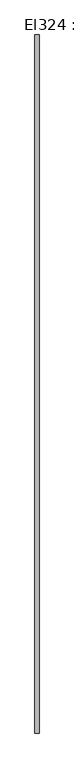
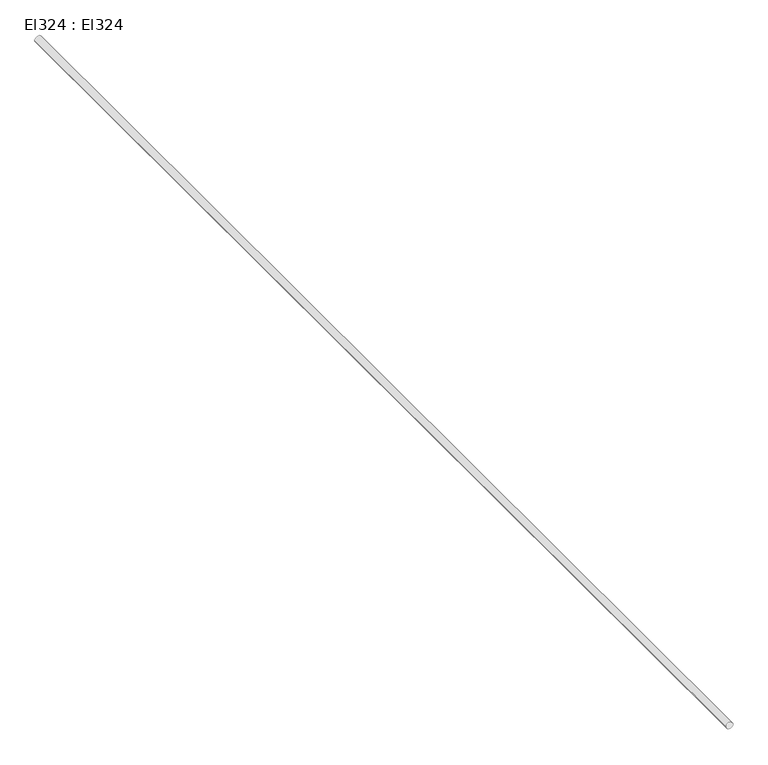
"""IFC4 building model written with IfcOpenShell, lengths in millimetres: cable carrier segment geometry, El324 : El324."""

import ifcopenshell
import ifcopenshell.guid

model = None  # the IFC model being written
_history = None  # IfcOwnerHistory: only IFC2X3 demands one
_inside = {}  # id of a spatial element -> (the spatial element, [elements in it])
_under = {}  # id of a project, library or spatial element -> (it, [spatial elements below it])
_declared = {}  # id of a project -> (the project, [libraries it declares])
_typed = {}  # id of a type object -> (the type object, [elements of that type])
_made_of = {}  # id of a material, layer set ... -> (it, [elements and type objects made of it])


def new_model(schema):
    """Start an empty IFC model of exactly this schema.

    Asked for "IFC4X3", IfcOpenShell would pick the latest addendum, in which some entities
    have other attributes; the version numbers below select the first issue.
    IFC2X3 requires an IfcOwnerHistory on every rooted entity: one is made here for all.
    """
    global model, _history
    if schema == "IFC4X3":
        model = ifcopenshell.file(schema_version=(4, 3, 0, 0))
    else:
        model = ifcopenshell.file(schema=schema)
    _inside.clear()
    _under.clear()
    _declared.clear()
    _typed.clear()
    _made_of.clear()
    _history = None
    if model.schema == "IFC2X3":
        org = make("IfcOrganization", Name="unknown")
        user = make(
            "IfcPersonAndOrganization",
            ThePerson=make("IfcPerson", FamilyName="unknown"),
            TheOrganization=org,
        )
        app = make(
            "IfcApplication",
            ApplicationDeveloper=org,
            Version="unknown",
            ApplicationFullName="unknown",
            ApplicationIdentifier="unknown",
        )
        _history = make(
            "IfcOwnerHistory",
            OwningUser=user,
            OwningApplication=app,
            ChangeAction="ADDED",
            CreationDate=0,
        )
    return model


def make(cls, **values):
    """One entity of the class cls with the attributes given. An attribute that is None is left unset."""
    return model.create_entity(
        cls, **{name: value for name, value in values.items() if value is not None}
    )


def rooted(cls, **values):
    """An entity with a GlobalId (a new one), such as an element, a storey or a relation."""
    return make(cls, GlobalId=ifcopenshell.guid.new(), OwnerHistory=_history, **values)


def si_unit(unit_type, name, prefix=None):
    """IfcSIUnit, for example si_unit("LENGTHUNIT", "METRE", prefix="MILLI")."""
    return make("IfcSIUnit", UnitType=unit_type, Prefix=prefix, Name=name)


def assignment(units):
    """IfcUnitAssignment: the units of a project."""
    return None if units is None else make("IfcUnitAssignment", Units=units)


def point(xyz):
    """IfcCartesianPoint."""
    return None if xyz is None else make("IfcCartesianPoint", Coordinates=xyz)


def direction(xyz):
    """IfcDirection."""
    return None if xyz is None else make("IfcDirection", DirectionRatios=xyz)


def frame(location, z_axis=None, x_axis=None):
    """IfcAxis2Placement3D, a coordinate frame: its origin and axes. An axis left out is left unset."""
    return make(
        "IfcAxis2Placement3D",
        Location=point(location),
        Axis=direction(z_axis),
        RefDirection=direction(x_axis),
    )


def frame_2d(location, x_axis=None):
    """IfcAxis2Placement2D, a coordinate frame in the plane: its origin and x axis."""
    return make(
        "IfcAxis2Placement2D", Location=point(location), RefDirection=direction(x_axis)
    )


def origin():
    """The frame at (0, 0, 0) with its axes left unset."""
    return frame((0.0, 0.0, 0.0))


def place(relative_to, where):
    """IfcLocalPlacement: puts the frame where relative to a parent placement (None: the world)."""
    return make(
        "IfcLocalPlacement", PlacementRelTo=relative_to, RelativePlacement=where
    )


def context(
    kind, dimensions, precision=None, world=None, true_north=None, identifier=None
):
    """IfcGeometricRepresentationContext, for example the 3D "Model" context."""
    return make(
        "IfcGeometricRepresentationContext",
        ContextIdentifier=identifier,
        ContextType=kind,
        CoordinateSpaceDimension=dimensions,
        Precision=precision,
        WorldCoordinateSystem=world,
        TrueNorth=true_north,
    )


def project(units=None, contexts=None):
    """IfcProject with its units and contexts."""
    return rooted(
        "IfcProject",
        Name="project",
        RepresentationContexts=contexts,
        UnitsInContext=assignment(units),
    )


def spatial(cls, under=None, at=None, **own):
    """A site, building, storey or space (cls), placed at a placement, below another one or the project."""
    s = rooted(cls, ObjectPlacement=at, **own)
    if under is not None:
        _under.setdefault(under.id(), (under, []))[1].append(s)
    return s


def circle_curve(where, radius):
    """IfcCircle in the frame where."""
    return make("IfcCircle", Position=where, Radius=radius)


def trimmed(basis, trim1, trim2, sense, master):
    """IfcTrimmedCurve: the piece of a basis curve between two trims."""
    return make(
        "IfcTrimmedCurve",
        BasisCurve=basis,
        Trim1=trim1,
        Trim2=trim2,
        SenseAgreement=sense,
        MasterRepresentation=master,
    )


def segment(curve, same_sense, transition):
    """IfcCompositeCurveSegment."""
    return make(
        "IfcCompositeCurveSegment",
        Transition=transition,
        SameSense=same_sense,
        ParentCurve=curve,
    )


def composite_curve(segments, self_intersect=None):
    """IfcCompositeCurve: segments joined end to end."""
    return make("IfcCompositeCurve", Segments=segments, SelfIntersect=self_intersect)


def outline(outer, holes=None, kind="AREA"):
    """IfcArbitraryClosedProfileDef: a profile drawn as a closed curve; with holes, ...WithVoids."""
    if holes is None:
        return make("IfcArbitraryClosedProfileDef", ProfileType=kind, OuterCurve=outer)
    return make(
        "IfcArbitraryProfileDefWithVoids",
        ProfileType=kind,
        OuterCurve=outer,
        InnerCurves=holes,
    )


def extrude(swept, where, along, depth):
    """IfcExtrudedAreaSolid: the profile swept, set in the frame where, extruded along a direction by depth."""
    return make(
        "IfcExtrudedAreaSolid",
        SweptArea=swept,
        Position=where,
        ExtrudedDirection=direction(along),
        Depth=depth,
    )


def shape(context_of_items, identifier, shape_type, items):
    """IfcShapeRepresentation: the items that make up one representation, for example the "Body"."""
    return make(
        "IfcShapeRepresentation",
        ContextOfItems=context_of_items,
        RepresentationIdentifier=identifier,
        RepresentationType=shape_type,
        Items=items,
    )


def source(mapping_origin, context_of_items, identifier, shape_type, items):
    """IfcRepresentationMap: a shape defined once, which mapped items show again and again."""
    return make(
        "IfcRepresentationMap",
        MappingOrigin=mapping_origin,
        MappedRepresentation=shape(context_of_items, identifier, shape_type, items),
    )


def transform(
    local_origin,
    x_axis=None,
    y_axis=None,
    z_axis=None,
    scale=None,
    scale2=None,
    scale3=None,
    uniform=True,
):
    """IfcCartesianTransformationOperator3D, or its non-uniform kind. x_axis, y_axis, z_axis: its Axis1, 2, 3."""
    if uniform:
        return make(
            "IfcCartesianTransformationOperator3D",
            Axis1=direction(x_axis),
            Axis2=direction(y_axis),
            LocalOrigin=point(local_origin),
            Scale=scale,
            Axis3=direction(z_axis),
        )
    return make(
        "IfcCartesianTransformationOperator3DnonUniform",
        Axis1=direction(x_axis),
        Axis2=direction(y_axis),
        LocalOrigin=point(local_origin),
        Scale=scale,
        Axis3=direction(z_axis),
        Scale2=scale2,
        Scale3=scale3,
    )


def mapped(mapping_source, mapping_target):
    """IfcMappedItem: shows the shape of a source again, moved by a transform."""
    return make(
        "IfcMappedItem", MappingSource=mapping_source, MappingTarget=mapping_target
    )


def made_of(thing, what):
    """Note that an element or type object is made of a material, layer set ...; save() writes the relation."""
    if what is not None:
        _made_of.setdefault(what.id(), (what, []))[1].append(thing)
    return thing


def element(
    cls,
    number,
    at=None,
    inside=None,
    cuts=None,
    type_object=None,
    material=None,
    context=None,
    identifier="Body",
    shape_type=None,
    held_by="IfcProductDefinitionShape",
    body=None,
    shapes=None,
    **own,
):
    """One element of the class cls, such as IfcWall. Its Tag is "e" and its number.

    at: its placement. inside: the storey or other place that contains it. cuts: it is an
    opening in that element (IfcRelVoidsElement). A single representation is given by context,
    identifier, shape_type and body (its items); several are given by shapes. held_by: the class
    of the entity that holds the representations. save() writes the other relations.
    """
    e = rooted(cls, Tag="e%d" % number, ObjectPlacement=at, **own)
    if body is not None:
        shapes = [shape(context, identifier, shape_type, body)]
    if shapes is not None:
        e.Representation = make(held_by, Representations=shapes)
    if inside is not None:
        _inside.setdefault(inside.id(), (inside, []))[1].append(e)
    if cuts is not None:
        rooted(
            "IfcRelVoidsElement", RelatingBuildingElement=cuts, RelatedOpeningElement=e
        )
    if type_object is not None:
        _typed.setdefault(type_object.id(), (type_object, []))[1].append(e)
    return made_of(e, material)


def aggregate(whole, parts):
    """IfcRelAggregates: a whole, such as a stair, and the parts it consists of."""
    return rooted("IfcRelAggregates", RelatingObject=whole, RelatedObjects=parts)


def save(model, path):
    """Write the relations noted so far, then the file.

    IfcRelAggregates (storeys below a building ...), IfcRelContainedInSpatialStructure (elements
    in a storey), IfcRelDefinesByType, IfcRelAssociatesMaterial and IfcRelDeclares: one each for
    every whole, place, type object, material and project.
    """
    for whole, parts in _under.values():
        aggregate(whole, parts)
    for where, things in _inside.values():
        rooted(
            "IfcRelContainedInSpatialStructure",
            RelatedElements=things,
            RelatingStructure=where,
        )
    for kind, things in _typed.values():
        rooted("IfcRelDefinesByType", RelatedObjects=things, RelatingType=kind)
    for what, things in _made_of.values():
        rooted("IfcRelAssociatesMaterial", RelatedObjects=things, RelatingMaterial=what)
    for by, libraries in _declared.values():
        rooted("IfcRelDeclares", RelatingContext=by, RelatedDefinitions=libraries)
    model.write(path)


def el324_el324_96947fde(model_context):
    return source(origin(), model_context, "Body", "SweptSolid", [
        extrude(outline(composite_curve([segment(trimmed(circle_curve(frame_2d((2950.0, 6816.67)), 9.5), [point((2950.0, 6807.17))], [point((2950.0, 6826.17))], False, "CARTESIAN"), True, "CONTINUOUS"), segment(trimmed(circle_curve(frame_2d((2950.0, 6816.67)), 9.5), [point((2950.0, 6826.17))], [point((2950.0, 6807.17))], False, "CARTESIAN"), True, "CONTINUOUS")], self_intersect=False)), frame((0.0, 3528.71, 0.0), z_axis=(0.0, 1.0, 0.0), x_axis=(0.0, 0.0, 1.0)), (0.0, 0.0, 1.0), 3214.99),
    ])


if __name__ == "__main__":
    model = new_model("IFC4")
    model_context = context("Model", 3, world=origin())
    ifc_project = project(units=[si_unit("LENGTHUNIT", "METRE", prefix="MILLI")], contexts=[model_context])
    site = spatial("IfcSite", under=ifc_project)
    building = spatial("IfcBuilding", under=site)
    placement = place(None, origin())
    el324_el324_shape = el324_el324_96947fde(model_context)
    element("IfcCableCarrierSegment", 1, ObjectType="El324 : El324", at=placement, inside=building, context=model_context, shape_type="MappedRepresentation", body=[
        mapped(el324_el324_shape, transform((0.0, 0.0, 0.0), x_axis=(1.0, 0.0, 0.0), y_axis=(0.0, 1.0, 0.0), z_axis=(0.0, 0.0, 1.0))),
    ])
    save(model, "model.ifc")
